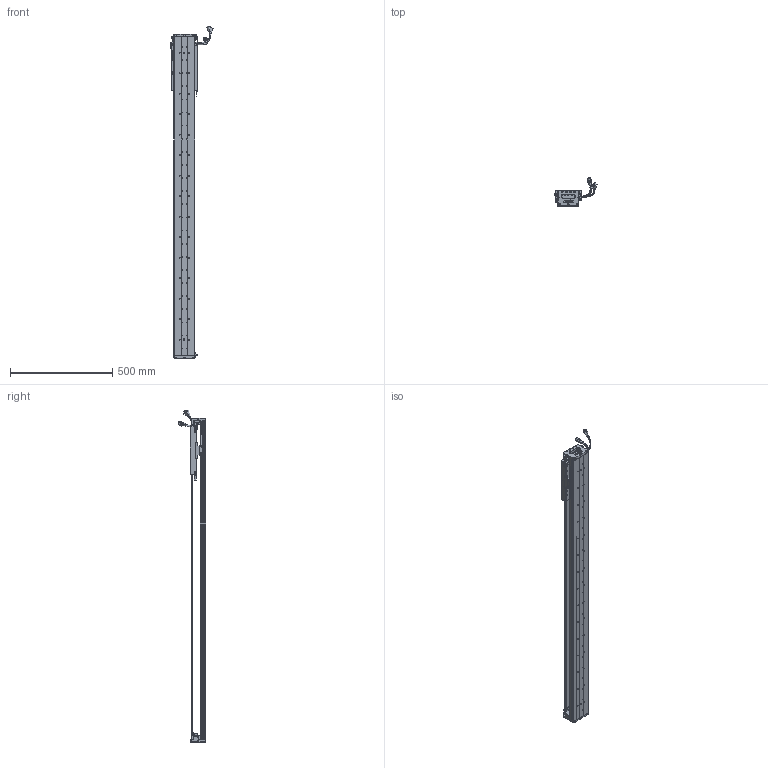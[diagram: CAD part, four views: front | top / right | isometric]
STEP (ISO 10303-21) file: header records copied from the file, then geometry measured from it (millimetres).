
FILE_DESCRIPTION (( 'STEP AP203' ), '1' );
FILE_NAME ('Z3-RY100D-1-L500-B-K.SLDASM_1250.step', '2021-05-17T02:50:37', ( '盈信电脑' ), ( '东莞市道滘镇水果街19号' ), 'SwSTEP 2.0', 'SolidWorks 2016', '' );
FILE_SCHEMA (( 'CONFIG_CONTROL_DESIGN' ));
Length unit declared in the file: millimetre
Products named in the file (36): SHIELDPLATE; 140雄赽晤鎢ん堤盄; Z-100詩湍傷裔啣; SCREW-M1.7; LABEL-Part-1; Z3-RY100铝滑块（21款）; 覜茼ん672; Z-RY100D詩湍奻揤裔; HARNESS; PBU_SHEET; 榋妏寠巭燃_暯_M2_2; SCREW-M1.6-1; PSLH080_PSLF2; Z3-RY100-L500詩湍90mm遵_1250; SCREW-M1.6; Z-RY100D覜茼んえ; COVER-Part-1; Z3-RY100D-500-倰第菁釱_1250; LABEL; SEAL-Part-1; HARNESS-Part-2; SCREW-M1.7-1; Z3-RY100D-1-L500-B-K.SLDASM_1250; SCALE-Part-2; SCALE; SCREW-M1.6-3; COVER; 100-Z-臏賑輸盄裔(21遴); HARNESS-Part-1; 140蚥薯蝶輸; SEAL; HOLDER0; SCALE-Part-1; 080黍杅芛假蚾釱21遴; Z-RY100D詩湍狟揤裔; SCREW-M1.6-2
Assembly tree (43 placements, depth 4):
  Z3-RY100D-1-L500-B-K.SLDASM_1250
    Z3-RY100D-500-倰第菁釱_1250
    Z3-RY100铝滑块（21款）
    PSLH080_PSLF2
      SCALE
        SCALE-Part-1
        SCALE-Part-2
      HARNESS
        HARNESS-Part-1
        HARNESS-Part-2
      LABEL
        LABEL-Part-1
      COVER
        COVER-Part-1
      SEAL
        SEAL-Part-1
      榋妏寠巭燃_暯_M2_2
      SHIELDPLATE
      SCREW-M1.7
      SCREW-M1.7-1
      PBU_SHEET
      SCREW-M1.6
      SCREW-M1.6-1
      SCREW-M1.6-2
      SCREW-M1.6-3
      HOLDER0
    080黍杅芛假蚾釱21遴
    Z-100詩湍傷裔啣  x2
    140蚥薯蝶輸  x2
    覜茼ん672  x3
    Z-RY100D覜茼んえ  x3
    100-Z-臏賑輸盄裔(21遴)
    140雄赽晤鎢ん堤盄
    Z3-RY100-L500詩湍90mm遵_1250
    Z-RY100D詩湍狟揤裔  x2
    Z-RY100D詩湍奻揤裔  x2
Bounding box: 205.83 x 136.11 x 1620.43 mm (x, y, z)
Volume: 3216209.6 mm3; surface area: 1244399.5 mm2
Topology: 38 solids, 38 shells, 2713 faces, 7213 edges, 4576 vertices
Faces by surface type: cylinder 1226, plane 1139, cone 226, torus 69, bspline 53
Entity records: 75295 total; most frequent: CARTESIAN_POINT 15829, DIRECTION 11999, ORIENTED_EDGE 11306, EDGE_CURVE 5653, AXIS2_PLACEMENT_3D 4446, VERTEX_POINT 3644, VECTOR 3107, LINE 3107
